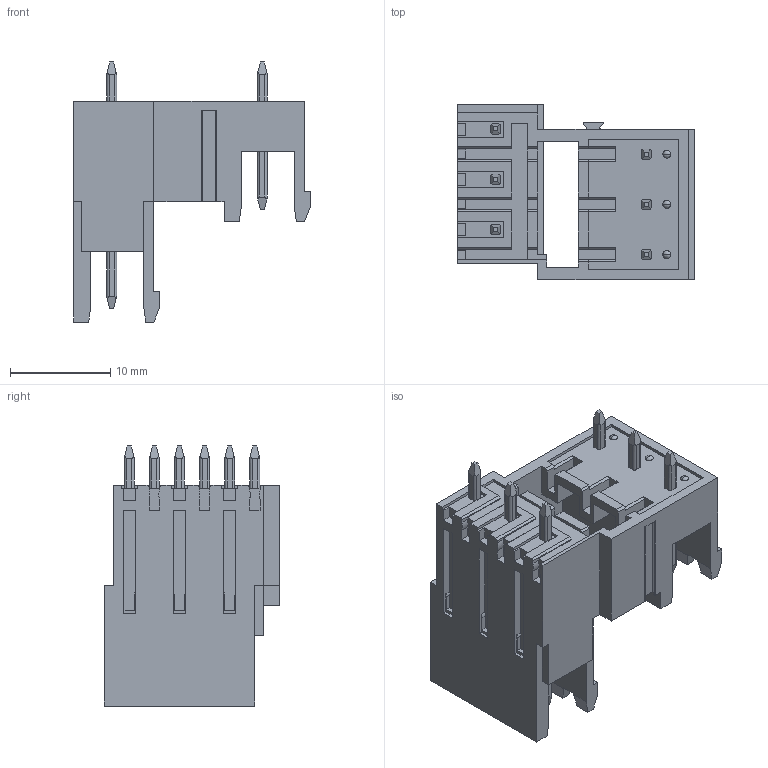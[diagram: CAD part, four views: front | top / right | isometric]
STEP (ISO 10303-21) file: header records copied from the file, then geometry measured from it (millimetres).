
FILE_DESCRIPTION((''),'2;1');
FILE_NAME('3','2019-05-09T',('zhenbing.lai'),(''),'CREO PARAMETRIC BY PTC INC, 2016260','CREO PARAMETRIC BY PTC INC, 2016260','');
FILE_SCHEMA(('CONFIG_CONTROL_DESIGN'));
Length unit declared in the file: millimetre
Products named in the file (1): 3
Bounding box: 23.6 x 17.5 x 25.9 mm (x, y, z)
Volume: 3070.5 mm3; surface area: 3150.4 mm2
Topology: 1 solids, 1 shells, 443 faces, 1266 edges, 835 vertices
Faces by surface type: plane 357, cylinder 74, sphere 6, cone 6
Entity records: 14490 total; most frequent: CARTESIAN_POINT 2997, ORIENTED_EDGE 2520, DIRECTION 2169, EDGE_CURVE 1260, VECTOR 1021, LINE 1021, VERTEX_POINT 835, AXIS2_PLACEMENT_3D 574
